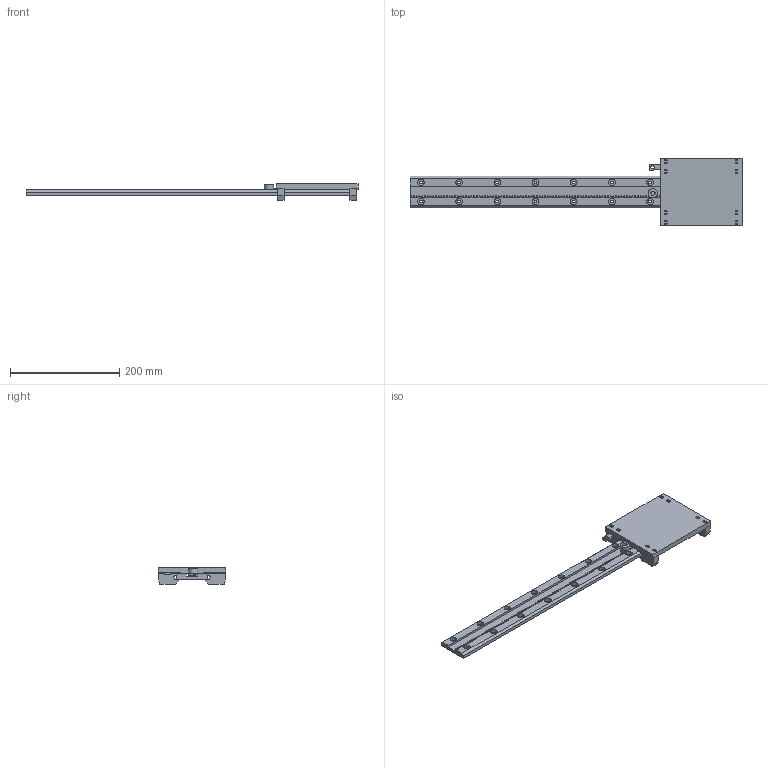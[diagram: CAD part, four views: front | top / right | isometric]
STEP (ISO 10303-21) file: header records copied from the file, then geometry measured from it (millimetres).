
FILE_DESCRIPTION(/* description */ (''),/* implementation_level */ '2;1');
FILE_NAME(/* name */ 'C:/Users/jakob/dev/fablabverket/students/100/web/assignments/week11/axis/chamfer_rail.step',/* time_stamp */ '2017-04-11T14:12:02+02:00',/* author */ (''),/* organization */ (''),/* preprocessor_version */ 'ST-DEVELOPER v16.5',/* originating_system */ 'Autodesk Translation Framework v5.2.0.2920',/* authorisation */ '');
FILE_SCHEMA (('AUTOMOTIVE_DESIGN { 1 0 10303 214 3 1 1 }'));
Products named in the file (7): Chamfer rail v4; chamfer_rail_58mm; Axis_plate58; Pinion 8mm axis 9 teeth copy; Wedge; Glide_block_mirror; Glide_block2
Assembly tree (8 placements, depth 2):
  Chamfer rail v4
    chamfer_rail_58mm
    Axis_plate58
    Pinion 8mm axis 9 teeth copy
    Wedge
    Glide_block2  x2
    Glide_block_mirror  x2
Bounding box: 608.25 x 123.33 x 30 mm (x, y, z)
Volume: 491747.4 mm3; surface area: 151593.7 mm2
Topology: 8 solids, 8 shells, 530 faces, 1455 edges, 967 vertices
Faces by surface type: bspline 247, plane 216, cylinder 67
Full cylindrical faces by diameter (mm): 5.2 x18, 6.1 x1, 8 x1, 12 x18, 17.124 x1
Entity records: 42750 total; most frequent: CARTESIAN_POINT 32940, ORIENTED_EDGE 2518, DIRECTION 1390, EDGE_CURVE 1259, VERTEX_POINT 862, LINE 618, VECTOR 618, EDGE_LOOP 587
